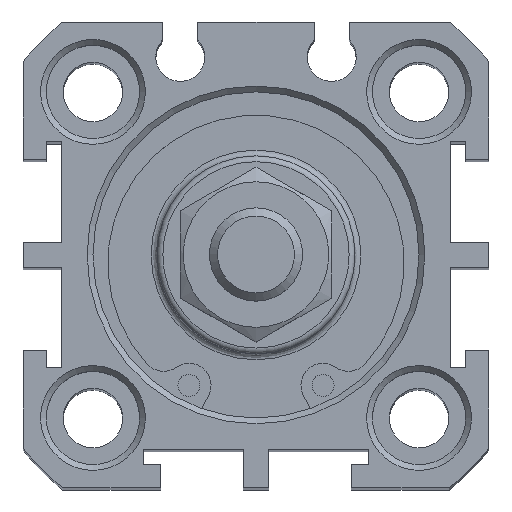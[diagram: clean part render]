
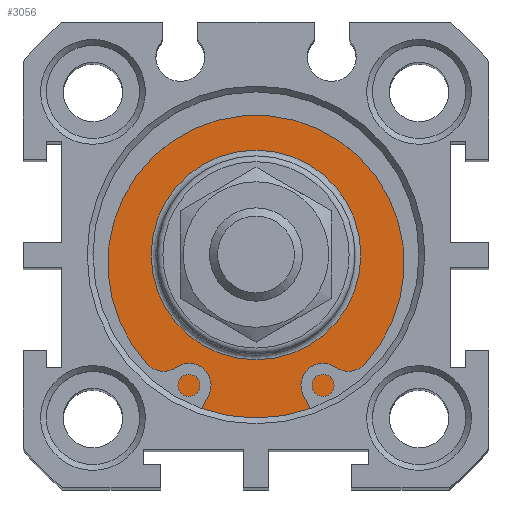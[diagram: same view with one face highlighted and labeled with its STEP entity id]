
A CAD part, top view. The second image highlights one B-rep face of the part: STEP entity #3056.
In plain terms, the highlighted planar face has unit normal (0, 0, 1).
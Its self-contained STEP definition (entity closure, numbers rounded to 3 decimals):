
#3005=CARTESIAN_POINT('',(0.12,10.914,103.3));
#3006=VERTEX_POINT('',#3005);
#3007=CARTESIAN_POINT('',(0.12,1.914,103.3));
#3008=DIRECTION('',(0.0,0.0,1.0));
#3009=DIRECTION('',(0.0,-1.0,0.0));
#3010=AXIS2_PLACEMENT_3D('',#3007,#3008,#3009);
#3011=CIRCLE('',#3010,9.);
#3012=EDGE_CURVE('',#3006,#3006,#3011,.T.);
#3037=CARTESIAN_POINT('',(0.12,13.164,103.3));
#3038=DIRECTION('',(0.0,0.0,1.0));
#3039=DIRECTION('',(1.0,0.0,0.0));
#3040=AXIS2_PLACEMENT_3D('',#3037,#3038,#3039);
#3041=PLANE('',#3040);
#3042=CARTESIAN_POINT('',(0.12,15.914,103.3));
#3043=VERTEX_POINT('',#3042);
#3044=CARTESIAN_POINT('',(0.12,1.914,103.3));
#3045=DIRECTION('',(0.0,0.0,-1.0));
#3046=DIRECTION('',(0.0,1.0,0.0));
#3047=AXIS2_PLACEMENT_3D('',#3044,#3045,#3046);
#3048=CIRCLE('',#3047,14.0);
#3049=EDGE_CURVE('',#3043,#3043,#3048,.T.);
#3050=ORIENTED_EDGE('',*,*,#3049,.F.);
#3051=EDGE_LOOP('',(#3050));
#3052=FACE_OUTER_BOUND('',#3051,.T.);
#3053=ORIENTED_EDGE('',*,*,#3012,.F.);
#3054=EDGE_LOOP('',(#3053));
#3055=FACE_BOUND('',#3054,.T.);
#3056=ADVANCED_FACE('',(#3052,#3055),#3041,.T.);
